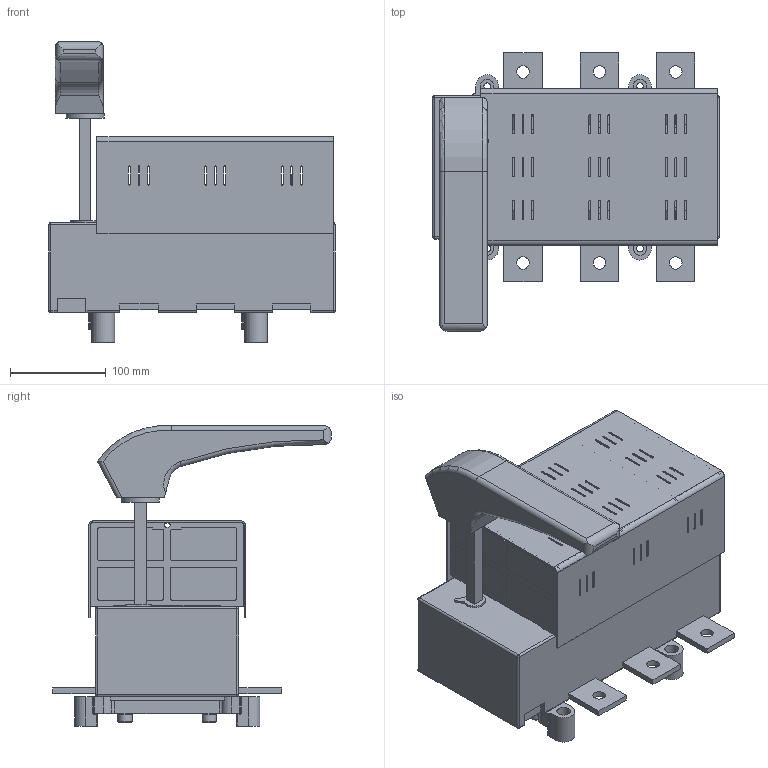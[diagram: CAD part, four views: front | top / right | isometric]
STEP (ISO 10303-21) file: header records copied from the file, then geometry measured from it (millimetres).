
FILE_DESCRIPTION(/* description */ (''),/* implementation_level */ '2;1');
FILE_NAME(/* name */ 'RAB 3 P3-R.stp',/* time_stamp */ '2021-08-19T14:38:58+02:00',/* author */ (''),/* organization */ (''),/* preprocessor_version */ 'ST-DEVELOPER v18.1',/* originating_system */ 'SIEMENS PLM Software NX 1965',/* authorisation */ '');
FILE_SCHEMA (('AUTOMOTIVE_DESIGN { 1 0 10303 214 3 1 1 1 }'));
Length unit declared in the file: millimetre
Products named in the file (1): RAB 3 P3-R_stp
Bounding box: 300 x 292 x 314.5 mm (x, y, z)
Volume: 4921729.3 mm3; surface area: 679001.9 mm2
Topology: 1 solids, 13 shells, 1572 faces, 4260 edges, 2727 vertices
Faces by surface type: plane 906, cylinder 550, torus 50, bspline 50, cone 8, sphere 8
Full cylindrical faces by diameter (mm): 3 x4, 4.8 x4, 5.6 x4, 6.5 x26, 7 x4, 10.5 x26, 13 x6, 13.5 x4, 14 x4, 15 x4, 40 x1
Entity records: 51389 total; most frequent: CARTESIAN_POINT 11625, DIRECTION 8224, ORIENTED_EDGE 8218, EDGE_CURVE 4109, LINE 2772, VECTOR 2772, AXIS2_PLACEMENT_3D 2726, VERTEX_POINT 2699
